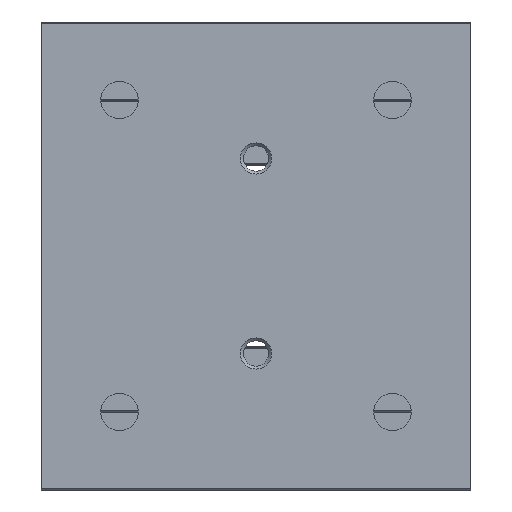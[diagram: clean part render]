
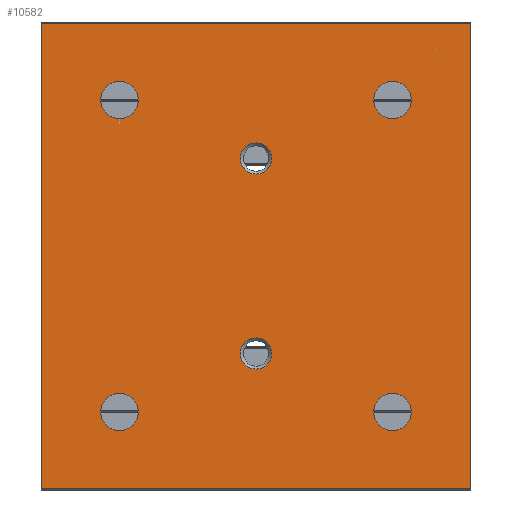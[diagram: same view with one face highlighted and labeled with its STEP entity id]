
A CAD part, front view. The second image highlights one B-rep face of the part: STEP entity #10582.
In plain terms, the highlighted planar face has unit normal (0, -1, 0).
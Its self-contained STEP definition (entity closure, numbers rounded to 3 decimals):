
#342=CIRCLE('',#11204,2.);
#343=CIRCLE('',#11205,2.);
#344=CIRCLE('',#11206,2.4);
#345=CIRCLE('',#11207,2.4);
#346=CIRCLE('',#11208,2.4);
#347=CIRCLE('',#11209,2.4);
#1044=ORIENTED_EDGE('',*,*,#4301,.F.);
#1045=ORIENTED_EDGE('',*,*,#4302,.F.);
#1046=ORIENTED_EDGE('',*,*,#4303,.T.);
#1047=ORIENTED_EDGE('',*,*,#4304,.F.);
#1048=ORIENTED_EDGE('',*,*,#4305,.F.);
#1049=ORIENTED_EDGE('',*,*,#4306,.F.);
#1050=ORIENTED_EDGE('',*,*,#4275,.T.);
#1051=ORIENTED_EDGE('',*,*,#4307,.F.);
#1052=ORIENTED_EDGE('',*,*,#4308,.F.);
#1053=ORIENTED_EDGE('',*,*,#4299,.T.);
#4275=EDGE_CURVE('',#5906,#5905,#6995,.T.);
#4299=EDGE_CURVE('',#5928,#5906,#7019,.T.);
#4301=EDGE_CURVE('',#5929,#5929,#342,.T.);
#4302=EDGE_CURVE('',#5930,#5930,#343,.T.);
#4303=EDGE_CURVE('',#5931,#5931,#344,.T.);
#4304=EDGE_CURVE('',#5932,#5932,#345,.T.);
#4305=EDGE_CURVE('',#5933,#5933,#346,.T.);
#4306=EDGE_CURVE('',#5934,#5934,#347,.T.);
#4307=EDGE_CURVE('',#5935,#5905,#7021,.T.);
#4308=EDGE_CURVE('',#5928,#5935,#7022,.T.);
#5905=VERTEX_POINT('',#15970);
#5906=VERTEX_POINT('',#15972);
#5928=VERTEX_POINT('',#16021);
#5929=VERTEX_POINT('',#16025);
#5930=VERTEX_POINT('',#16027);
#5931=VERTEX_POINT('',#16029);
#5932=VERTEX_POINT('',#16031);
#5933=VERTEX_POINT('',#16033);
#5934=VERTEX_POINT('',#16035);
#5935=VERTEX_POINT('',#16037);
#6995=LINE('',#15971,#8007);
#7019=LINE('',#16020,#8031);
#7021=LINE('',#16036,#8033);
#7022=LINE('',#16038,#8034);
#8007=VECTOR('',#12480,1000.);
#8031=VECTOR('',#12510,1000.);
#8033=VECTOR('',#12526,1000.);
#8034=VECTOR('',#12527,1000.);
#8975=EDGE_LOOP('',(#1044));
#8976=EDGE_LOOP('',(#1045));
#8977=EDGE_LOOP('',(#1046));
#8978=EDGE_LOOP('',(#1047));
#8979=EDGE_LOOP('',(#1048));
#8980=EDGE_LOOP('',(#1049));
#8981=EDGE_LOOP('',(#1050,#1051,#1052,#1053));
#9637=FACE_BOUND('',#8975,.T.);
#9638=FACE_BOUND('',#8976,.T.);
#9639=FACE_BOUND('',#8977,.T.);
#9640=FACE_BOUND('',#8978,.T.);
#9641=FACE_BOUND('',#8979,.T.);
#9642=FACE_BOUND('',#8980,.T.);
#9643=FACE_BOUND('',#8981,.T.);
#10299=PLANE('',#11203);
#10582=ADVANCED_FACE('',(#9637,#9638,#9639,#9640,#9641,#9642,#9643),#10299,
 .F.);
#11203=AXIS2_PLACEMENT_3D('',#16023,#12512,#12513);
#11204=AXIS2_PLACEMENT_3D('',#16024,#12514,#12515);
#11205=AXIS2_PLACEMENT_3D('',#16026,#12516,#12517);
#11206=AXIS2_PLACEMENT_3D('',#16028,#12518,#12519);
#11207=AXIS2_PLACEMENT_3D('',#16030,#12520,#12521);
#11208=AXIS2_PLACEMENT_3D('',#16032,#12522,#12523);
#11209=AXIS2_PLACEMENT_3D('',#16034,#12524,#12525);
#12480=DIRECTION('',(0.,0.,-1.));
#12510=DIRECTION('',(-1.,0.,0.));
#12512=DIRECTION('',(0.,1.,0.));
#12513=DIRECTION('',(0.,0.,1.));
#12514=DIRECTION('',(0.,-1.,0.));
#12515=DIRECTION('',(0.,0.,-1.));
#12516=DIRECTION('',(0.,-1.,0.));
#12517=DIRECTION('',(0.,0.,-1.));
#12518=DIRECTION('',(0.,1.,0.));
#12519=DIRECTION('',(0.,0.,1.));
#12520=DIRECTION('',(0.,-1.,0.));
#12521=DIRECTION('',(0.,0.,-1.));
#12522=DIRECTION('',(0.,-1.,0.));
#12523=DIRECTION('',(0.,0.,-1.));
#12524=DIRECTION('',(0.,-1.,0.));
#12525=DIRECTION('',(0.,0.,-1.));
#12526=DIRECTION('',(-1.,0.,0.));
#12527=DIRECTION('',(0.,0.,-1.));
#15970=CARTESIAN_POINT('',(0.,0.,-29.85));
#15971=CARTESIAN_POINT('',(0.,0.,29.85));
#15972=CARTESIAN_POINT('',(0.,0.,29.85));
#16020=CARTESIAN_POINT('',(55.,0.,29.85));
#16021=CARTESIAN_POINT('',(55.,0.,29.85));
#16023=CARTESIAN_POINT('',(55.,0.,29.85));
#16024=CARTESIAN_POINT('',(27.5,0.,-12.5));
#16025=CARTESIAN_POINT('',(27.5,0.,-14.5));
#16026=CARTESIAN_POINT('',(27.5,0.,12.5));
#16027=CARTESIAN_POINT('',(27.5,0.,10.5));
#16028=CARTESIAN_POINT('',(45.,0.,20.));
#16029=CARTESIAN_POINT('',(45.,0.,22.4));
#16030=CARTESIAN_POINT('',(45.,0.,-20.));
#16031=CARTESIAN_POINT('',(45.,0.,-22.4));
#16032=CARTESIAN_POINT('',(10.,0.,-20.));
#16033=CARTESIAN_POINT('',(10.,0.,-22.4));
#16034=CARTESIAN_POINT('',(10.,0.,20.));
#16035=CARTESIAN_POINT('',(10.,0.,17.6));
#16036=CARTESIAN_POINT('',(55.,0.,-29.85));
#16037=CARTESIAN_POINT('',(55.,0.,-29.85));
#16038=CARTESIAN_POINT('',(55.,0.,29.85));
